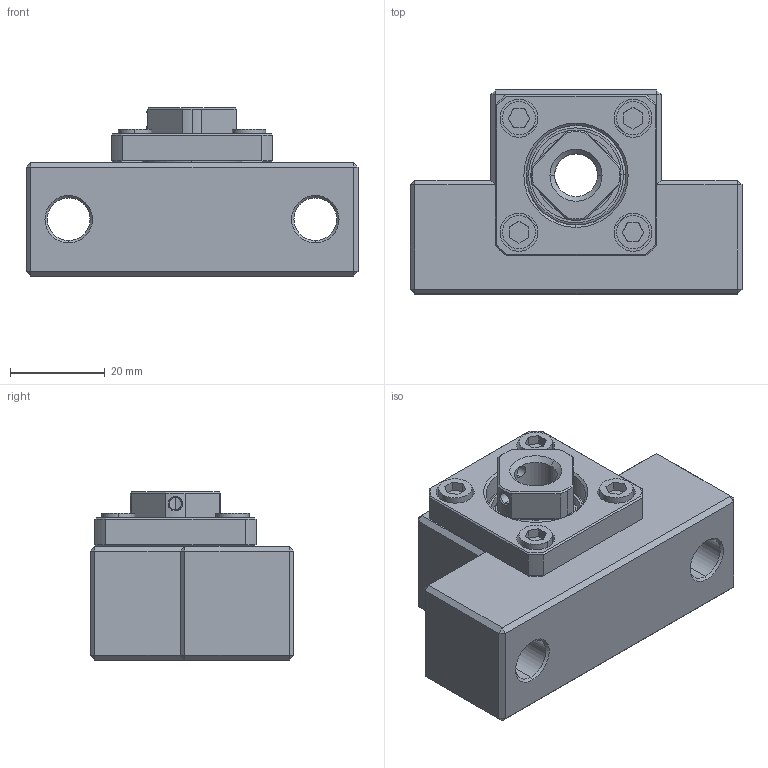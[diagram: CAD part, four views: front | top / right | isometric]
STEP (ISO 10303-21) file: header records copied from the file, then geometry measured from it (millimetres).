
FILE_DESCRIPTION (( 'STEP AP203' ), '1' );
FILE_NAME ('EK10²Õ¦X.STEP', '2017-12-28T05:23:53', ( '' ), ( '' ), 'SwSTEP 2.0', 'SolidWorks 2017', '' );
FILE_SCHEMA (( 'CONFIG_CONTROL_DESIGN' ));
Length unit declared in the file: millimetre
Products named in the file (1): EK10組合
Bounding box: 70 x 43 x 35.5 mm (x, y, z)
Surface area: 16508.2 mm2 (no closed solid volume)
Topology: 0 solids, 16 shells, 229 faces, 557 edges, 349 vertices
Faces by surface type: plane 111, cylinder 61, cone 37, torus 16, bspline 4
Entity records: 7199 total; most frequent: CARTESIAN_POINT 1769, DIRECTION 1162, ORIENTED_EDGE 1005, EDGE_CURVE 557, AXIS2_PLACEMENT_3D 440, VERTEX_POINT 349, VECTOR 282, LINE 282
